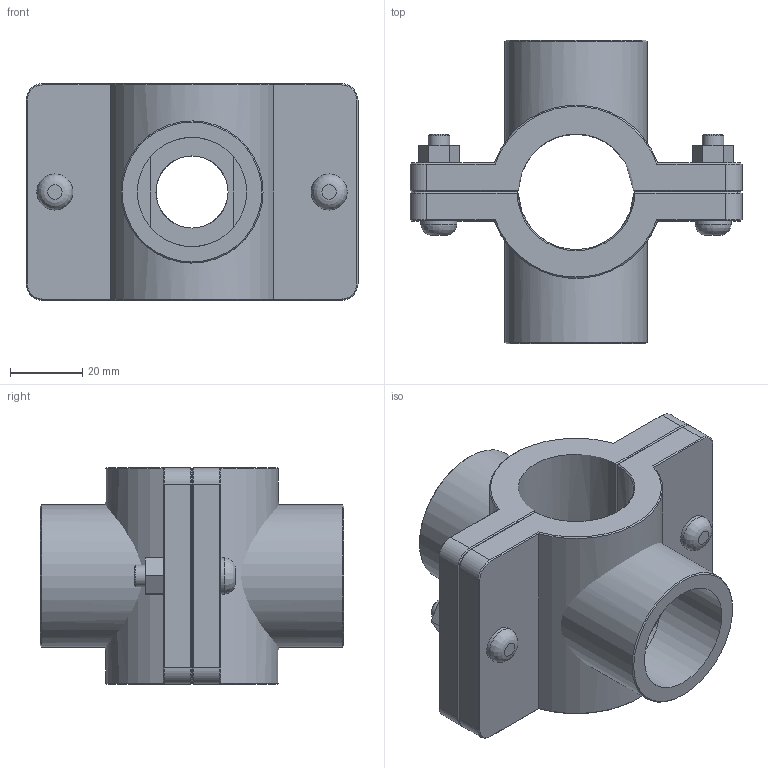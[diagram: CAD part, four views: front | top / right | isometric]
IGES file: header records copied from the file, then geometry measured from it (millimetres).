
Global section: file name: 161760032010_161860032010.ipt; native system: Autodesk Inventor 2015; preprocessor: unknown; author: KIM; date: 20170618.093645; units: millimetre
Bounding box: 92 x 84 x 60 mm (x, y, z)
Volume: 134245.5 mm3; surface area: 48055.3 mm2
Topology: 2 solids, 2 shells, 127 faces, 295 edges, 184 vertices
Faces by surface type: plane 68, cone 24, revolution 18, cylinder 17
Full cylindrical faces by diameter (mm): 6 x2, 10 x4, 39.378 x1
